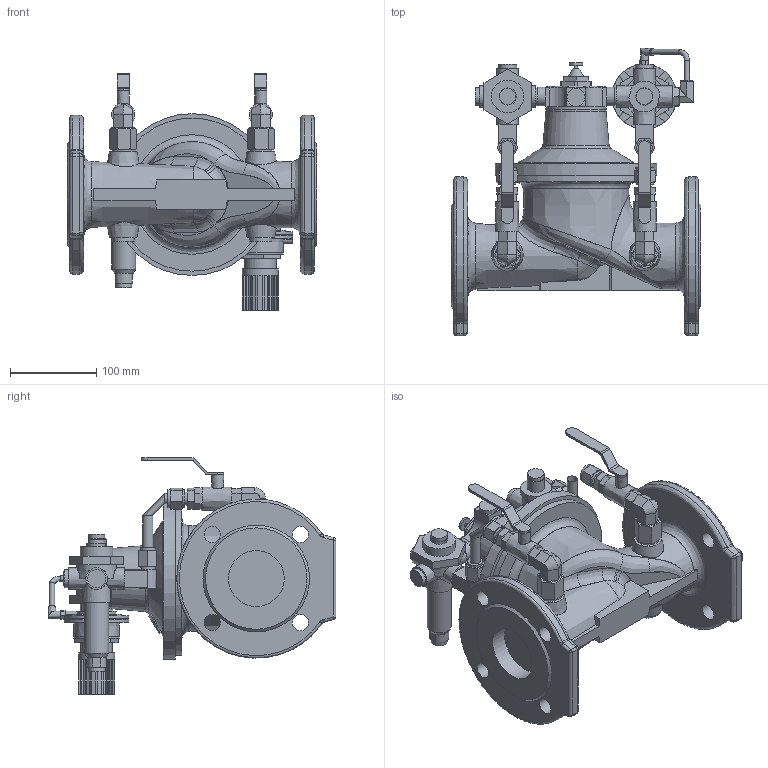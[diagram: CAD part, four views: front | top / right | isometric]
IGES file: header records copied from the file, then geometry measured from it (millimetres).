
Start section: SolidWorks IGES file using analytic representation for surfaces
Global section: file name: \\avksan2\techshare\PBM outline export from Enovia\O_859_00_DN065_1XXXX00_REV01.igs; native system: SolidWorks 2019; preprocessor: SolidWorks 2019; author: pbm; date: 201117.125110; units: millimetre
Bounding box: 290 x 334.53 x 274.79 mm (x, y, z)
Surface area: 411876.5 mm2 (no closed solid volume)
Topology: 0 solids, 0 shells, 817 faces, 3925 edges, 3814 vertices
Faces by surface type: bspline 552, revolution 265
